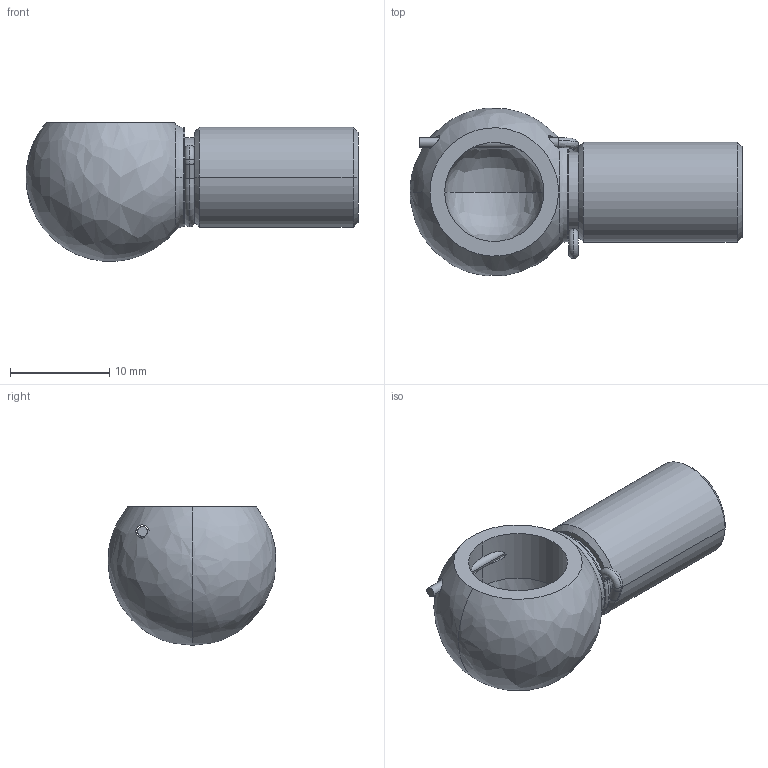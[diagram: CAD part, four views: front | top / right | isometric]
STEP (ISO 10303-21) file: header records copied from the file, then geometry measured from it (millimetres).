
FILE_DESCRIPTION (( 'STEP AP214' ), '1' );
FILE_NAME ('13.C10M6.STEP', '2018-01-08T13:17:44', ( '' ), ( '' ), 'SwSTEP 2.0', 'SolidWorks 2017', '' );
FILE_SCHEMA (( 'AUTOMOTIVE_DESIGN' ));
Length unit declared in the file: millimetre
Products named in the file (1): 13.C10M6
Bounding box: 33.5 x 16.91 x 13.98 mm (x, y, z)
Volume: 2763.6 mm3; surface area: 2191.8 mm2
Topology: 3 solids, 3 shells, 53 faces, 132 edges, 76 vertices
Faces by surface type: cylinder 18, plane 11, bspline 8, cone 8, torus 8
Entity records: 1981 total; most frequent: CARTESIAN_POINT 690, DIRECTION 283, ORIENTED_EDGE 248, AXIS2_PLACEMENT_3D 127, EDGE_CURVE 124, CIRCLE 81, VERTEX_POINT 76, EDGE_LOOP 58
